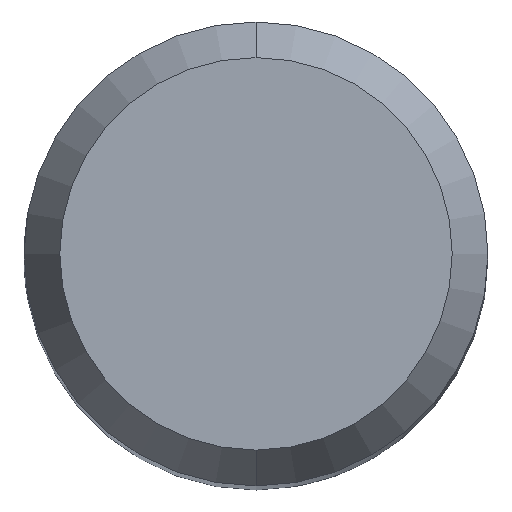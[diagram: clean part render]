
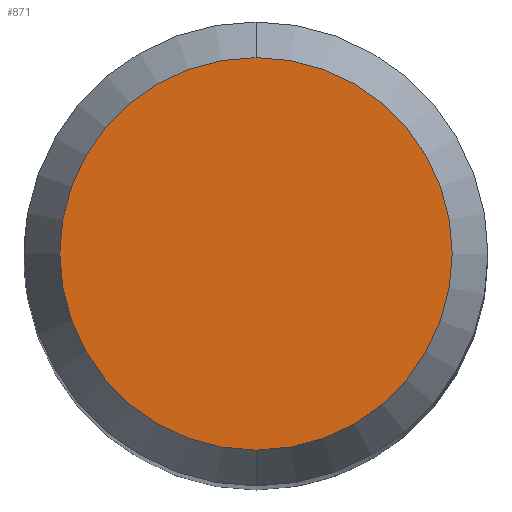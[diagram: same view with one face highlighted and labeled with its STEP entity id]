
A CAD part, top view. The second image highlights one B-rep face of the part: STEP entity #871.
In plain terms, the highlighted planar face has unit normal (0, 0, 1).
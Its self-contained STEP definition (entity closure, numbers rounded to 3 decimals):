
#513=EDGE_CURVE('',#1041,#1253,#1355,.T.);
#871=ADVANCED_FACE('',(#1741),#1742,.T.);
#1041=VERTEX_POINT('',#1932);
#1155=EDGE_CURVE('',#1253,#1041,#2058,.T.);
#1253=VERTEX_POINT('',#2171);
#1355=CIRCLE('',#2505,2.538);
#1741=FACE_OUTER_BOUND('',#4030,.T.);
#1742=PLANE('',#4031);
#1932=CARTESIAN_POINT('',(0.,-2.538,0.0));
#2058=CIRCLE('',#5027,2.538);
#2171=CARTESIAN_POINT('',(0.0,2.538,0.0));
#2505=AXIS2_PLACEMENT_3D('',#5696,#5697,#5698);
#4030=EDGE_LOOP('',(#6109,#6110));
#4031=AXIS2_PLACEMENT_3D('',#6111,#6112,#6113);
#5027=AXIS2_PLACEMENT_3D('',#6512,#6513,#6514);
#5696=CARTESIAN_POINT('',(0.0,0.0,0.0));
#5697=DIRECTION('',(0.0,0.0,-1.0));
#5698=DIRECTION('',(0.0,1.0,0.0));
#6109=ORIENTED_EDGE('',*,*,#1155,.F.);
#6110=ORIENTED_EDGE('',*,*,#513,.F.);
#6111=CARTESIAN_POINT('',(0.0,1.269,0.0));
#6112=DIRECTION('',(-0.0,0.0,1.0));
#6113=DIRECTION('',(0.0,-1.0,0.0));
#6512=CARTESIAN_POINT('',(0.0,0.0,0.0));
#6513=DIRECTION('',(0.0,0.0,-1.0));
#6514=DIRECTION('',(0.0,1.0,0.0));
